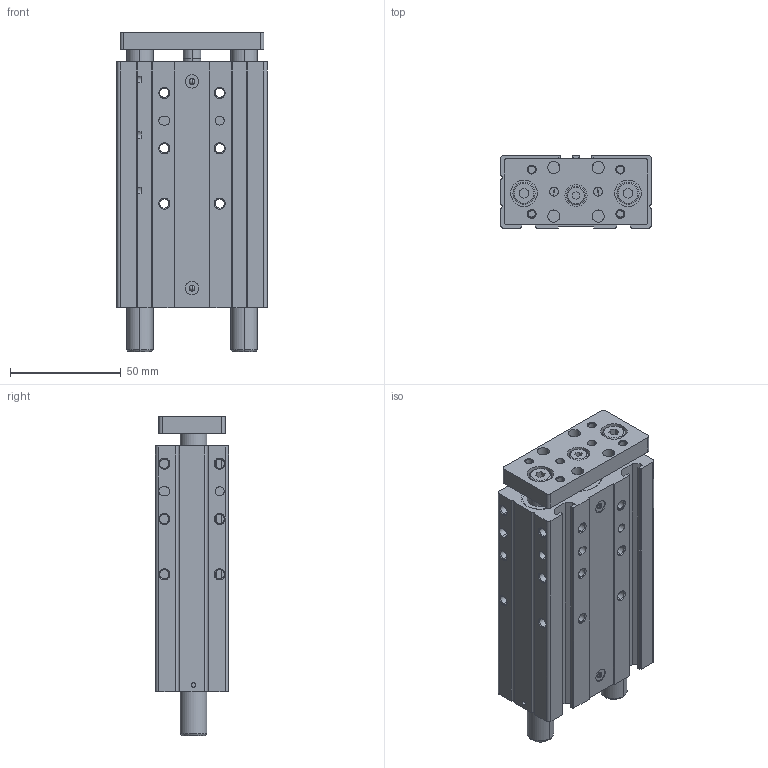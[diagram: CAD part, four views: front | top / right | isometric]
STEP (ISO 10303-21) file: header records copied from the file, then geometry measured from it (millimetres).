
FILE_DESCRIPTION((''),'2;1');
FILE_NAME('0822061005_ASM','2017-07-14T',('hug2hc'),(''),'CREO PARAMETRIC BY PTC INC, 2016260','CREO PARAMETRIC BY PTC INC, 2016260','');
FILE_SCHEMA(('CONFIG_CONTROL_DESIGN'));
Length unit declared in the file: millimetre
Products named in the file (3): 0822061005-A; 0822061005-B; 0822061005_ASM
Assembly tree (2 placements, depth 2):
  0822061005_ASM
    0822061005-A
    0822061005-B
Bounding box: 68 x 33 x 144.5 mm (x, y, z)
Volume: 217950.8 mm3; surface area: 75637.7 mm2
Topology: 2 solids, 6 shells, 430 faces, 1044 edges, 671 vertices
Faces by surface type: cylinder 185, plane 173, cone 62, torus 6, sphere 4
Entity records: 13261 total; most frequent: CARTESIAN_POINT 2611, DIRECTION 2333, ORIENTED_EDGE 2080, EDGE_CURVE 1040, AXIS2_PLACEMENT_3D 890, VERTEX_POINT 671, VECTOR 553, LINE 553
